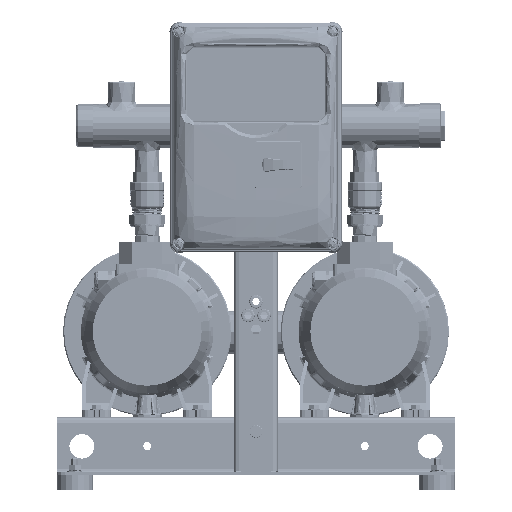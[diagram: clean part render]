
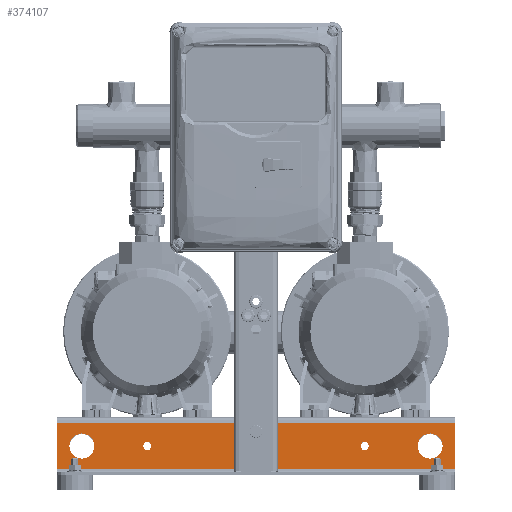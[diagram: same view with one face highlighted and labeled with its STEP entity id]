
A CAD part, top view. The second image highlights one B-rep face of the part: STEP entity #374107.
In plain terms, the highlighted planar face has unit normal (0, 0, 1) as drawn and (0, 0, -1) by its records, which use the part's own axes.
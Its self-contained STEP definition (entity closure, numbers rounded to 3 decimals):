
#367838=DIRECTION('',(1.,0.,0.));
#367839=VECTOR('',#367838,550.);
#367840=CARTESIAN_POINT('',(-275.,-8.,-150.));
#367841=LINE('',#367840,#367839);
#370068=DIRECTION('',(0.,1.,0.));
#370069=VECTOR('',#370068,64.);
#370070=CARTESIAN_POINT('',(-275.,-72.,-150.));
#370071=LINE('',#370070,#370069);
#370089=DIRECTION('',(1.,0.,0.));
#370090=VECTOR('',#370089,550.);
#370091=CARTESIAN_POINT('',(-275.,-72.,-150.));
#370092=LINE('',#370091,#370090);
#370119=DIRECTION('',(0.,1.,0.));
#370120=VECTOR('',#370119,26.);
#370121=CARTESIAN_POINT('',(-26.7,-40.,-150.));
#370122=LINE('',#370121,#370120);
#370126=DIRECTION('',(1.,0.,0.));
#370127=VECTOR('',#370126,3.6);
#370128=CARTESIAN_POINT('',(-30.3,-40.,-150.));
#370129=LINE('',#370128,#370127);
#370133=DIRECTION('',(0.,-1.,0.));
#370134=VECTOR('',#370133,26.);
#370135=CARTESIAN_POINT('',(-30.3,-14.,-150.));
#370136=LINE('',#370135,#370134);
#370140=DIRECTION('',(-1.,0.,0.));
#370141=VECTOR('',#370140,3.6);
#370142=CARTESIAN_POINT('',(-26.7,-14.,-150.));
#370143=LINE('',#370142,#370141);
#370147=DIRECTION('',(0.,1.,0.));
#370148=VECTOR('',#370147,26.);
#370149=CARTESIAN_POINT('',(30.3,-40.,-150.));
#370150=LINE('',#370149,#370148);
#370154=DIRECTION('',(1.,0.,0.));
#370155=VECTOR('',#370154,3.6);
#370156=CARTESIAN_POINT('',(26.7,-40.,-150.));
#370157=LINE('',#370156,#370155);
#370161=DIRECTION('',(0.,-1.,0.));
#370162=VECTOR('',#370161,26.);
#370163=CARTESIAN_POINT('',(26.7,-14.,-150.));
#370164=LINE('',#370163,#370162);
#370168=DIRECTION('',(-1.,0.,0.));
#370169=VECTOR('',#370168,3.6);
#370170=CARTESIAN_POINT('',(30.3,-14.,-150.));
#370171=LINE('',#370170,#370169);
#370175=CARTESIAN_POINT('',(0.,-20.,-150.));
#370176=DIRECTION('',(0.,0.,-1.));
#370177=DIRECTION('',(1.,0.,0.));
#370178=AXIS2_PLACEMENT_3D('',#370175,#370176,#370177);
#370183=CARTESIAN_POINT('',(0.,-20.,-150.));
#370184=DIRECTION('',(0.,0.,-1.));
#370185=DIRECTION('',(-1.,0.,0.));
#370186=AXIS2_PLACEMENT_3D('',#370183,#370184,#370185);
#370191=CARTESIAN_POINT('',(-240.,-40.,-150.));
#370192=DIRECTION('',(0.,0.,1.));
#370193=DIRECTION('',(-1.,0.,0.));
#370194=AXIS2_PLACEMENT_3D('',#370191,#370192,#370193);
#370199=CARTESIAN_POINT('',(-240.,-40.,-150.));
#370200=DIRECTION('',(0.,0.,1.));
#370201=DIRECTION('',(1.,0.,0.));
#370202=AXIS2_PLACEMENT_3D('',#370199,#370200,#370201);
#370207=CARTESIAN_POINT('',(240.,-40.,-150.));
#370208=DIRECTION('',(0.,0.,1.));
#370209=DIRECTION('',(-1.,0.,0.));
#370210=AXIS2_PLACEMENT_3D('',#370207,#370208,#370209);
#370215=CARTESIAN_POINT('',(240.,-40.,-150.));
#370216=DIRECTION('',(0.,0.,1.));
#370217=DIRECTION('',(1.,0.,0.));
#370218=AXIS2_PLACEMENT_3D('',#370215,#370216,#370217);
#370223=CARTESIAN_POINT('',(-150.,-40.,-150.));
#370224=DIRECTION('',(0.,0.,1.));
#370225=DIRECTION('',(1.,0.,0.));
#370226=AXIS2_PLACEMENT_3D('',#370223,#370224,#370225);
#370231=CARTESIAN_POINT('',(-150.,-40.,-150.));
#370232=DIRECTION('',(0.,0.,1.));
#370233=DIRECTION('',(-1.,0.,0.));
#370234=AXIS2_PLACEMENT_3D('',#370231,#370232,#370233);
#370239=CARTESIAN_POINT('',(150.,-40.,-150.));
#370240=DIRECTION('',(0.,0.,-1.));
#370241=DIRECTION('',(-1.,0.,0.));
#370242=AXIS2_PLACEMENT_3D('',#370239,#370240,#370241);
#370247=CARTESIAN_POINT('',(150.,-40.,-150.));
#370248=DIRECTION('',(0.,0.,-1.));
#370249=DIRECTION('',(1.,0.,0.));
#370250=AXIS2_PLACEMENT_3D('',#370247,#370248,#370249);
#370269=DIRECTION('',(0.,1.,0.));
#370270=VECTOR('',#370269,64.);
#370271=CARTESIAN_POINT('',(275.,-72.,-150.));
#370272=LINE('',#370271,#370270);
#371834=CARTESIAN_POINT('',(-275.,-72.,-150.));
#371835=CARTESIAN_POINT('',(-275.,-8.,-150.));
#371836=VERTEX_POINT('',#371834);
#371837=VERTEX_POINT('',#371835);
#371838=CARTESIAN_POINT('',(275.,-72.,-150.));
#371839=CARTESIAN_POINT('',(275.,-8.,-150.));
#371840=VERTEX_POINT('',#371838);
#371841=VERTEX_POINT('',#371839);
#372194=CARTESIAN_POINT('',(-26.7,-40.,-150.));
#372195=CARTESIAN_POINT('',(-26.7,-14.,-150.));
#372196=VERTEX_POINT('',#372194);
#372197=VERTEX_POINT('',#372195);
#372198=CARTESIAN_POINT('',(-30.3,-14.,-150.));
#372199=VERTEX_POINT('',#372198);
#372200=CARTESIAN_POINT('',(-30.3,-40.,-150.));
#372201=VERTEX_POINT('',#372200);
#372202=CARTESIAN_POINT('',(30.3,-40.,-150.));
#372203=CARTESIAN_POINT('',(30.3,-14.,-150.));
#372204=VERTEX_POINT('',#372202);
#372205=VERTEX_POINT('',#372203);
#372206=CARTESIAN_POINT('',(26.7,-14.,-150.));
#372207=VERTEX_POINT('',#372206);
#372208=CARTESIAN_POINT('',(26.7,-40.,-150.));
#372209=VERTEX_POINT('',#372208);
#372226=CARTESIAN_POINT('',(6.25,-20.,-150.));
#372227=CARTESIAN_POINT('',(-6.25,-20.,-150.));
#372228=VERTEX_POINT('',#372226);
#372229=VERTEX_POINT('',#372227);
#372250=CARTESIAN_POINT('',(-257.5,-40.,-150.));
#372251=CARTESIAN_POINT('',(-222.5,-40.,-150.));
#372252=VERTEX_POINT('',#372250);
#372253=VERTEX_POINT('',#372251);
#372254=CARTESIAN_POINT('',(222.5,-40.,-150.));
#372255=CARTESIAN_POINT('',(257.5,-40.,-150.));
#372256=VERTEX_POINT('',#372254);
#372257=VERTEX_POINT('',#372255);
#372350=CARTESIAN_POINT('',(-143.75,-40.,-150.));
#372351=CARTESIAN_POINT('',(-156.25,-40.,-150.));
#372352=VERTEX_POINT('',#372350);
#372353=VERTEX_POINT('',#372351);
#372362=CARTESIAN_POINT('',(143.75,-40.,-150.));
#372364=VERTEX_POINT('',#372362);
#372370=CARTESIAN_POINT('',(156.25,-40.,-150.));
#372372=VERTEX_POINT('',#372370);
#374045=CARTESIAN_POINT('',(-275.,-76.,-150.));
#374046=DIRECTION('',(0.,0.,-1.));
#374047=DIRECTION('',(0.,1.,0.));
#374048=AXIS2_PLACEMENT_3D('',#374045,#374046,#374047);
#374049=PLANE('',#374048);
#374050=ORIENTED_EDGE('',*,*,#373998,.F.);
#374051=ORIENTED_EDGE('',*,*,#374035,.T.);
#374053=ORIENTED_EDGE('',*,*,#374052,.T.);
#374054=ORIENTED_EDGE('',*,*,#373106,.F.);
#374055=EDGE_LOOP('',(#374050,#374051,#374053,#374054));
#374056=FACE_OUTER_BOUND('',#374055,.F.);
#374058=ORIENTED_EDGE('',*,*,#374057,.F.);
#374060=ORIENTED_EDGE('',*,*,#374059,.F.);
#374062=ORIENTED_EDGE('',*,*,#374061,.F.);
#374064=ORIENTED_EDGE('',*,*,#374063,.F.);
#374065=EDGE_LOOP('',(#374058,#374060,#374062,#374064));
#374066=FACE_BOUND('',#374065,.F.);
#374068=ORIENTED_EDGE('',*,*,#374067,.F.);
#374070=ORIENTED_EDGE('',*,*,#374069,.F.);
#374072=ORIENTED_EDGE('',*,*,#374071,.F.);
#374074=ORIENTED_EDGE('',*,*,#374073,.F.);
#374075=EDGE_LOOP('',(#374068,#374070,#374072,#374074));
#374076=FACE_BOUND('',#374075,.F.);
#374078=ORIENTED_EDGE('',*,*,#374077,.T.);
#374080=ORIENTED_EDGE('',*,*,#374079,.T.);
#374081=EDGE_LOOP('',(#374078,#374080));
#374082=FACE_BOUND('',#374081,.F.);
#374084=ORIENTED_EDGE('',*,*,#374083,.F.);
#374086=ORIENTED_EDGE('',*,*,#374085,.F.);
#374087=EDGE_LOOP('',(#374084,#374086));
#374088=FACE_BOUND('',#374087,.F.);
#374090=ORIENTED_EDGE('',*,*,#374089,.F.);
#374092=ORIENTED_EDGE('',*,*,#374091,.F.);
#374093=EDGE_LOOP('',(#374090,#374092));
#374094=FACE_BOUND('',#374093,.F.);
#374096=ORIENTED_EDGE('',*,*,#374095,.F.);
#374098=ORIENTED_EDGE('',*,*,#374097,.F.);
#374099=EDGE_LOOP('',(#374096,#374098));
#374100=FACE_BOUND('',#374099,.F.);
#374102=ORIENTED_EDGE('',*,*,#374101,.T.);
#374104=ORIENTED_EDGE('',*,*,#374103,.T.);
#374105=EDGE_LOOP('',(#374102,#374104));
#374106=FACE_BOUND('',#374105,.F.);
#370179=CIRCLE('',#370178,6.25);
#370187=CIRCLE('',#370186,6.25);
#370195=CIRCLE('',#370194,17.5);
#370203=CIRCLE('',#370202,17.5);
#370211=CIRCLE('',#370210,17.5);
#370219=CIRCLE('',#370218,17.5);
#370227=CIRCLE('',#370226,6.25);
#370235=CIRCLE('',#370234,6.25);
#370243=CIRCLE('',#370242,6.25);
#370251=CIRCLE('',#370250,6.25);
#373106=EDGE_CURVE('',#371837,#371841,#367841,.T.);
#373998=EDGE_CURVE('',#371836,#371837,#370071,.T.);
#374035=EDGE_CURVE('',#371836,#371840,#370092,.T.);
#374052=EDGE_CURVE('',#371840,#371841,#370272,.T.);
#374057=EDGE_CURVE('',#372196,#372197,#370122,.T.);
#374059=EDGE_CURVE('',#372201,#372196,#370129,.T.);
#374061=EDGE_CURVE('',#372199,#372201,#370136,.T.);
#374063=EDGE_CURVE('',#372197,#372199,#370143,.T.);
#374067=EDGE_CURVE('',#372204,#372205,#370150,.T.);
#374069=EDGE_CURVE('',#372209,#372204,#370157,.T.);
#374071=EDGE_CURVE('',#372207,#372209,#370164,.T.);
#374073=EDGE_CURVE('',#372205,#372207,#370171,.T.);
#374077=EDGE_CURVE('',#372228,#372229,#370179,.T.);
#374079=EDGE_CURVE('',#372229,#372228,#370187,.T.);
#374083=EDGE_CURVE('',#372252,#372253,#370195,.T.);
#374085=EDGE_CURVE('',#372253,#372252,#370203,.T.);
#374089=EDGE_CURVE('',#372256,#372257,#370211,.T.);
#374091=EDGE_CURVE('',#372257,#372256,#370219,.T.);
#374095=EDGE_CURVE('',#372352,#372353,#370227,.T.);
#374097=EDGE_CURVE('',#372353,#372352,#370235,.T.);
#374101=EDGE_CURVE('',#372364,#372372,#370243,.T.);
#374103=EDGE_CURVE('',#372372,#372364,#370251,.T.);
#374107=ADVANCED_FACE('',(#374056,#374066,#374076,#374082,#374088,#374094,
#374100,#374106),#374049,.T.);
